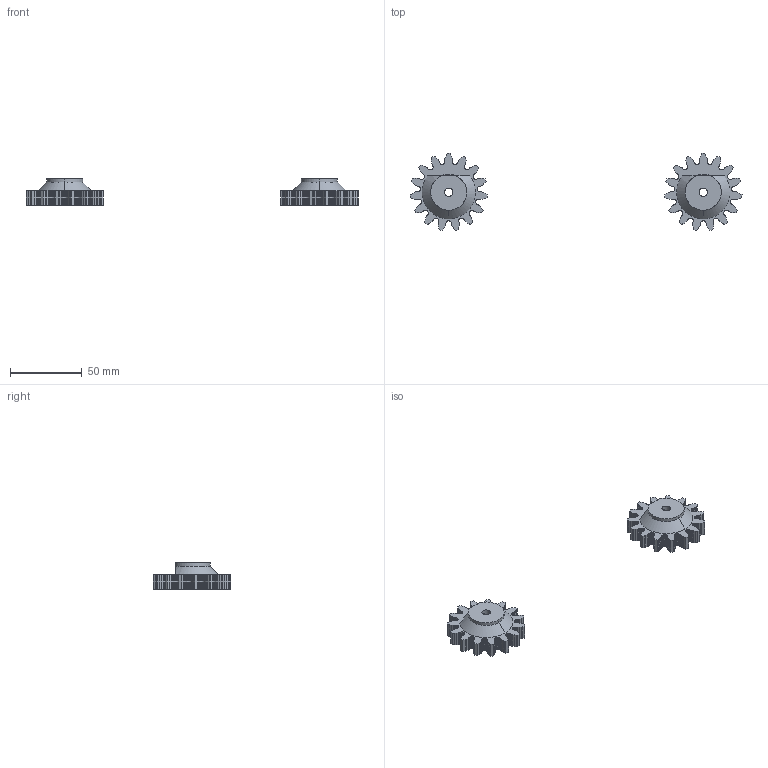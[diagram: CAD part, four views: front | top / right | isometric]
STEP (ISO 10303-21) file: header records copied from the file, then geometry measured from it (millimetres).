
FILE_DESCRIPTION(/* description */ (''),/* implementation_level */ '2;1');
FILE_NAME(/* name */ '240803-DIYUTM-SmallGears',/* time_stamp */ '2024-08-03T10:05:16+02:00',/* author */ (''),/* organization */ (''),/* preprocessor_version */ 'ST-DEVELOPER v16.5',/* originating_system */ 'Rhino 7.37',/* authorisation */ '');
FILE_SCHEMA (('CONFIG_CONTROL_DESIGN'));
Length unit declared in the file: millimetre
Products named in the file (1): Document
Bounding box: 230.88 x 53.56 x 18.35 mm (x, y, z)
Volume: 44272.3 mm3; surface area: 14480.4 mm2
Topology: 2 solids, 2 shells, 1052 faces, 3130 edges, 2086 vertices
Faces by surface type: plane 1032, cylinder 12, bspline 8
Entity records: 30678 total; most frequent: CARTESIAN_POINT 9721, ORIENTED_EDGE 6260, EDGE_CURVE 3130, B_SPLINE_CURVE_WITH_KNOTS 3078, VERTEX_POINT 2086, EDGE_LOOP 1064, ADVANCED_FACE 1052, FACE_OUTER_BOUND 1052
